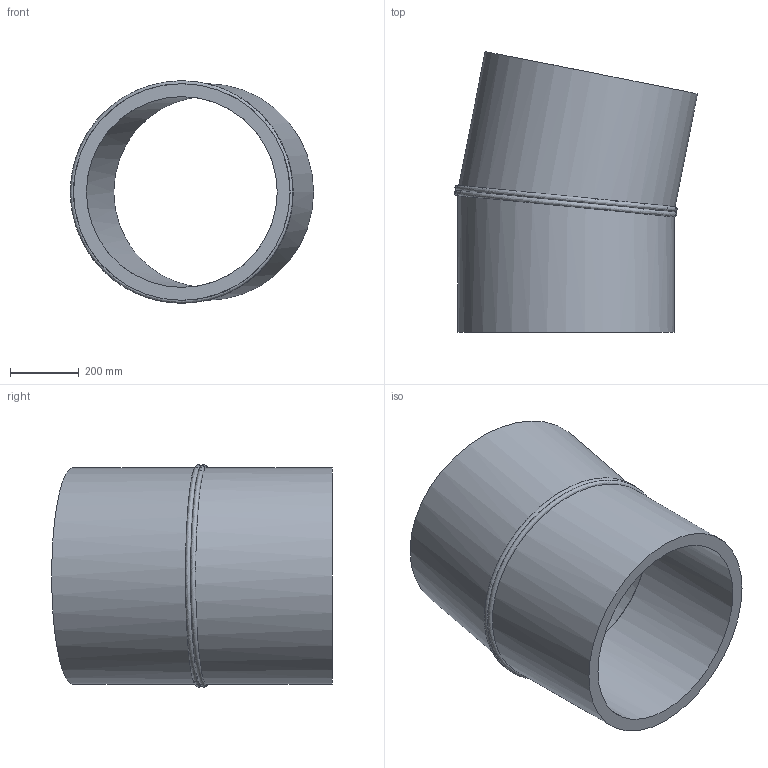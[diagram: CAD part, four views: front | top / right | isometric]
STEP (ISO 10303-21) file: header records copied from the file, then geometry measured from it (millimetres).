
FILE_DESCRIPTION(/* description */ ('Unknown'),/* implementation_level */ '2;1');
FILE_NAME(/* name */ 'Curva 11.25° a settore DE630 SDR17',/* time_stamp */ '2022-07-22T15:28:58+02:00',/* author */ ('Unknown'),/* organization */ ('Unknown'),/* preprocessor_version */ 'ST-DEVELOPER v18.102',/* originating_system */ 'Solid Edge',/* authorisation */ 'Unknown');
FILE_SCHEMA (('AUTOMOTIVE_DESIGN {1 0 10303 214 3 1 1}'));
Length unit declared in the file: millimetre
Products named in the file (2): Curva 11.25° a settore DE630 SDR17; Tubo x Gomito 11.25° DE630 SDR17
Assembly tree (2 placements, depth 2):
  Curva 11.25° a settore DE630 SDR17
    Tubo x Gomito 11.25° DE630 SDR17  x2
Bounding box: 707.24 x 816.18 x 646.45 mm (x, y, z)
Volume: 53457662.3 mm3; surface area: 3158473.9 mm2
Topology: 2 solids, 2 shells, 10 faces, 20 edges, 14 vertices
Faces by surface type: cylinder 4, plane 4, bspline 2
Full cylindrical faces by diameter (mm): 555.2 x2, 630 x2
Entity records: 1297 total; most frequent: CARTESIAN_POINT 1160, DIRECTION 20, ORIENTED_EDGE 10, EDGE_LOOP 10, FACE_BOUND 10, AXIS2_PLACEMENT_3D 10, EDGE_CURVE 5, VERTEX_POINT 5
